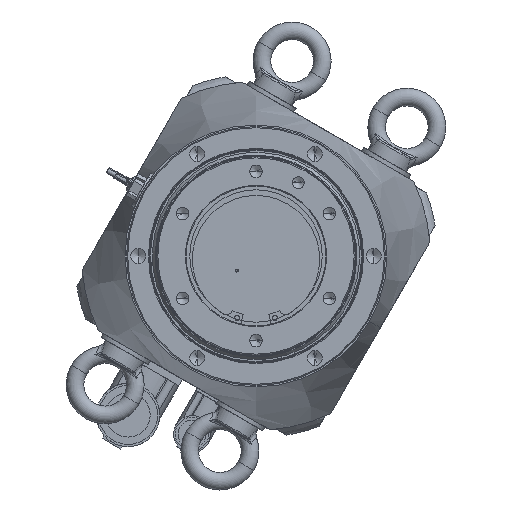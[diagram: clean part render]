
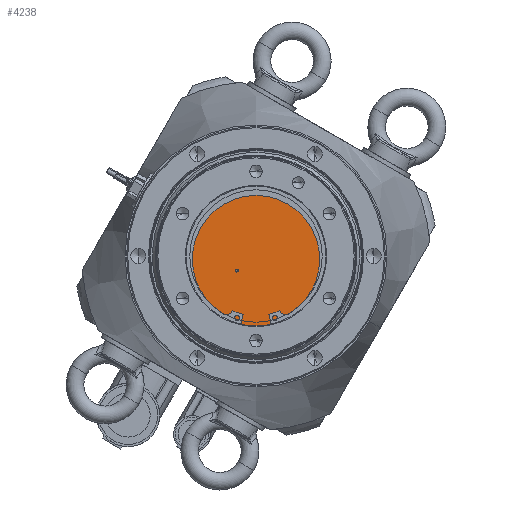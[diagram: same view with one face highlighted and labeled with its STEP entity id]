
A CAD part, front view. The second image highlights one B-rep face of the part: STEP entity #4238.
In plain terms, the highlighted planar face has unit normal (0, -1, 0).
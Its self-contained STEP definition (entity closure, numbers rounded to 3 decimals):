
#266 = CARTESIAN_POINT ( 'NONE',  ( 55.209, -290.221, 134.409 ) ) ;
#1531 = DIRECTION ( 'NONE',  ( 0., 1., 0. ) ) ;
#2127 = CIRCLE ( 'NONE', #12692, 1. ) ;
#2422 = EDGE_LOOP ( 'NONE', ( #38031, #30434 ) ) ;
#2654 = CIRCLE ( 'NONE', #5859, 1. ) ;
#3332 = DIRECTION ( 'NONE',  ( 0., 0., 1. ) ) ;
#4238 = ADVANCED_FACE ( 'NONE', ( #22553, #14502 ), #24382, .F. ) ;
#5859 = AXIS2_PLACEMENT_3D ( 'NONE', #19653, #1531, #22687 ) ;
#6287 = CARTESIAN_POINT ( 'NONE',  ( 55.209, -290.221, 134.409 ) ) ;
#6783 = AXIS2_PLACEMENT_3D ( 'NONE', #31550, #13426, #34593 ) ;
#6820 = EDGE_CURVE ( 'NONE', #10157, #34254, #12910, .T. ) ;
#7011 = CIRCLE ( 'NONE', #6783, 47.5 ) ;
#8569 = VERTEX_POINT ( 'NONE', #12820 ) ;
#9282 = DIRECTION ( 'NONE',  ( 0., 0., 1. ) ) ;
#10157 = VERTEX_POINT ( 'NONE', #20350 ) ;
#10280 = CARTESIAN_POINT ( 'NONE',  ( 42.239, -290.221, 124.416 ) ) ;
#11208 = EDGE_CURVE ( 'NONE', #34254, #10157, #7011, .T. ) ;
#12188 = AXIS2_PLACEMENT_3D ( 'NONE', #266, #21425, #3332 ) ;
#12692 = AXIS2_PLACEMENT_3D ( 'NONE', #10280, #31461, #13337 ) ;
#12820 = CARTESIAN_POINT ( 'NONE',  ( 42.239, -290.221, 123.416 ) ) ;
#12910 = CIRCLE ( 'NONE', #12188, 47.5 ) ;
#13337 = DIRECTION ( 'NONE',  ( 0., 0., 1. ) ) ;
#13426 = DIRECTION ( 'NONE',  ( 0., 1., 0. ) ) ;
#14319 = CARTESIAN_POINT ( 'NONE',  ( 55.209, -290.221, 86.909 ) ) ;
#14320 = EDGE_CURVE ( 'NONE', #8569, #24125, #2654, .T. ) ;
#14502 = FACE_BOUND ( 'NONE', #16128, .T. ) ;
#16125 = EDGE_CURVE ( 'NONE', #24125, #8569, #2127, .T. ) ;
#16128 = EDGE_LOOP ( 'NONE', ( #24715, #37834 ) ) ;
#19653 = CARTESIAN_POINT ( 'NONE',  ( 42.239, -290.221, 124.416 ) ) ;
#20350 = CARTESIAN_POINT ( 'NONE',  ( 55.209, -290.221, 181.909 ) ) ;
#20426 = CARTESIAN_POINT ( 'NONE',  ( 42.239, -290.221, 125.416 ) ) ;
#21425 = DIRECTION ( 'NONE',  ( 0., 1., 0. ) ) ;
#22553 = FACE_OUTER_BOUND ( 'NONE', #2422, .T. ) ;
#22687 = DIRECTION ( 'NONE',  ( 0., 0., 1. ) ) ;
#24125 = VERTEX_POINT ( 'NONE', #20426 ) ;
#24382 = PLANE ( 'NONE',  #28176 ) ;
#24715 = ORIENTED_EDGE ( 'NONE', *, *, #14320, .T. ) ;
#27410 = DIRECTION ( 'NONE',  ( 0., 1., 0. ) ) ;
#28176 = AXIS2_PLACEMENT_3D ( 'NONE', #6287, #27410, #9282 ) ;
#30434 = ORIENTED_EDGE ( 'NONE', *, *, #6820, .F. ) ;
#31461 = DIRECTION ( 'NONE',  ( 0., 1., 0. ) ) ;
#31550 = CARTESIAN_POINT ( 'NONE',  ( 55.209, -290.221, 134.409 ) ) ;
#34254 = VERTEX_POINT ( 'NONE', #14319 ) ;
#34593 = DIRECTION ( 'NONE',  ( 0., 0., 1. ) ) ;
#37834 = ORIENTED_EDGE ( 'NONE', *, *, #16125, .T. ) ;
#38031 = ORIENTED_EDGE ( 'NONE', *, *, #11208, .F. ) ;
